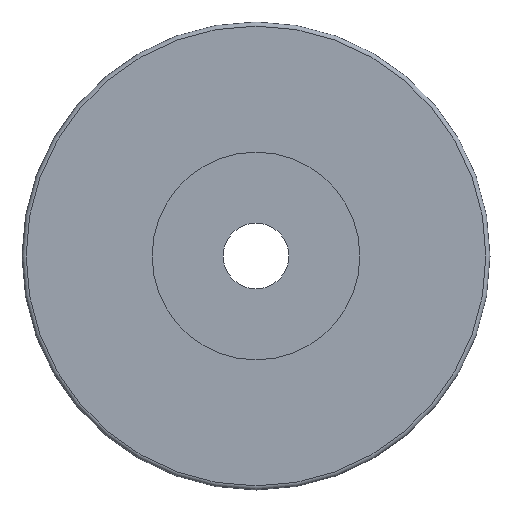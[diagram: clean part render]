
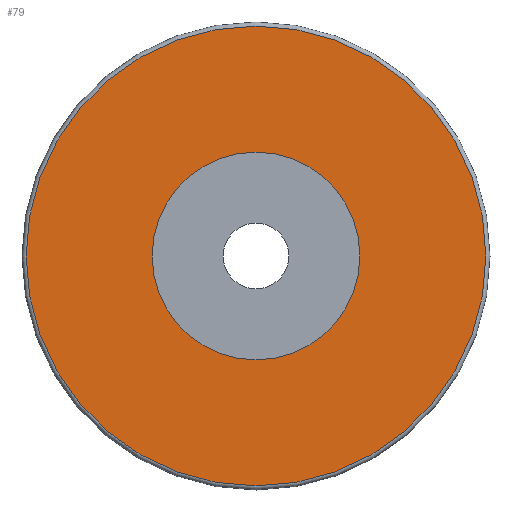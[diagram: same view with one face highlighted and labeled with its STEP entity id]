
A CAD part, front view. The second image highlights one B-rep face of the part: STEP entity #79.
In plain terms, the highlighted planar face has unit normal (0, -1, 0).
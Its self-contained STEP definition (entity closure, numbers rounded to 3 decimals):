
#79 = ADVANCED_FACE( '', ( #98, #99 ), #100, .T. );
#98 = FACE_OUTER_BOUND( '', #128, .T. );
#99 = FACE_BOUND( '', #129, .T. );
#100 = PLANE( '', #130 );
#128 = EDGE_LOOP( '', ( #166 ) );
#129 = EDGE_LOOP( '', ( #167 ) );
#130 = AXIS2_PLACEMENT_3D( '', #168, #169, #170 );
#166 = ORIENTED_EDGE( '', *, *, #201, .T. );
#167 = ORIENTED_EDGE( '', *, *, #200, .F. );
#168 = CARTESIAN_POINT( '', ( 12.65, 0., 0. ) );
#169 = DIRECTION( '', ( 0., -1., 0. ) );
#170 = DIRECTION( '', ( 0., 0., -1. ) );
#200 = EDGE_CURVE( '', #214, #214, #215, .T. );
#201 = EDGE_CURVE( '', #216, #216, #217, .T. );
#214 = VERTEX_POINT( '', #234 );
#215 = CIRCLE( '', #235, 12.65 );
#216 = VERTEX_POINT( '', #236 );
#217 = CIRCLE( '', #237, 28. );
#234 = CARTESIAN_POINT( '', ( 0., 0., -12.65 ) );
#235 = AXIS2_PLACEMENT_3D( '', #258, #259, #260 );
#236 = CARTESIAN_POINT( '', ( 0., 0., -28. ) );
#237 = AXIS2_PLACEMENT_3D( '', #261, #262, #263 );
#258 = CARTESIAN_POINT( '', ( 0., 0., 0. ) );
#259 = DIRECTION( '', ( 0., -1., 0. ) );
#260 = DIRECTION( '', ( 0., 0., -1. ) );
#261 = CARTESIAN_POINT( '', ( 0., 0., 0. ) );
#262 = DIRECTION( '', ( 0., -1., 0. ) );
#263 = DIRECTION( '', ( 0., 0., -1. ) );
